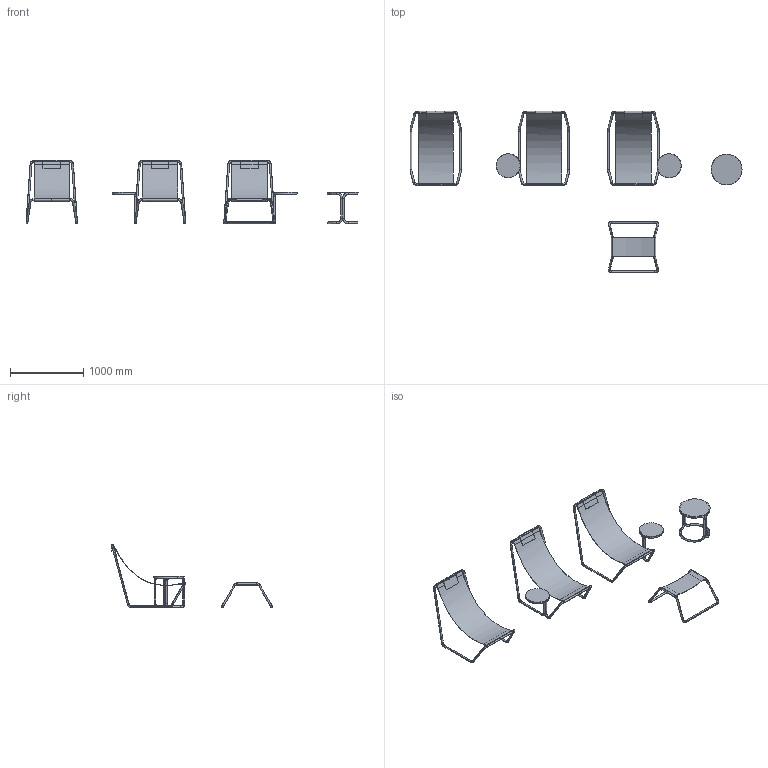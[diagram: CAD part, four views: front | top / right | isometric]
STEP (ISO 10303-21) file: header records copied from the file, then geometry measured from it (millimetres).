
FILE_DESCRIPTION(/* description */ (''),/* implementation_level */ '2;1');
FILE_NAME(/* name */ 'TRUE_Laguna_3D',/* time_stamp */ '2024-01-26T18:05:15+01:00',/* author */ (''),/* organization */ (''),/* preprocessor_version */ 'ST-DEVELOPER v16.5',/* originating_system */ '',/* authorisation */ '');
FILE_SCHEMA (('CONFIG_CONTROL_DESIGN'));
Length unit declared in the file: millimetre
Products named in the file (1): Document
Bounding box: 4545.24 x 2210.75 x 870 mm (x, y, z)
Volume: 19523443.8 mm3; surface area: 7586313.1 mm2
Topology: 16 solids, 16 shells, 375 faces, 839 edges, 485 vertices
Faces by surface type: bspline 194, cylinder 118, plane 63
Entity records: 29141 total; most frequent: CARTESIAN_POINT 24200, ORIENTED_EDGE 1582, EDGE_CURVE 791, VERTEX_POINT 437, EDGE_LOOP 376, ADVANCED_FACE 375, FACE_OUTER_BOUND 375, B_SPLINE_CURVE_WITH_KNOTS 285
